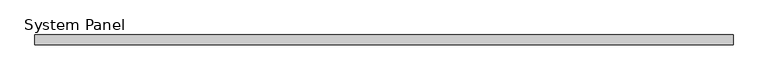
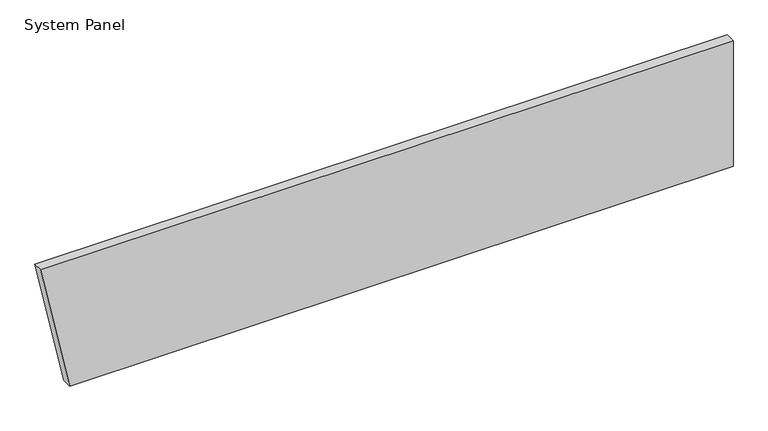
"""IFC4 building model written with IfcOpenShell, lengths in millimetres: plate geometry, System Panel : InsulWall_90mm_Plain_Surfmist."""

from ifc_helpers import new_model, si_unit, frame, origin, place, context, project, spatial, polyline, outline, extrude, source, transform, mapped, element, save


def system_panel_87486c66(model_context):
    return source(origin(), model_context, "Body", "SweptSolid", [
        extrude(outline(polyline([(0.0, -2864.5641691), (0.0, 3125.4358309), (1200.0, 3125.4358309), (1200.0, -3125.4358309), (0.0, -2864.5641691)])), frame((0.0, -90.0, 0.0), z_axis=(0.0, 1.0, 0.0), x_axis=(0.0, 0.0, 1.0)), (0.0, 0.0, 1.0), 90.0),
    ])


if __name__ == "__main__":
    model = new_model("IFC4")
    model_context = context("Model", 3, world=origin())
    ifc_project = project(units=[si_unit("LENGTHUNIT", "METRE", prefix="MILLI")], contexts=[model_context])
    site = spatial("IfcSite", under=ifc_project)
    building = spatial("IfcBuilding", under=site)
    placement = place(None, origin())
    system_panel_shape = system_panel_87486c66(model_context)
    element("IfcPlate", 1, ObjectType="System Panel : InsulWall_90mm_Plain_Surfmist", at=placement, inside=building, context=model_context, shape_type="MappedRepresentation", body=[
        mapped(system_panel_shape, transform((0.0, 0.0, 0.0), x_axis=(1.0, 0.0, 0.0), y_axis=(0.0, 1.0, 0.0), z_axis=(0.0, 0.0, 1.0))),
    ])
    save(model, "model.ifc")
